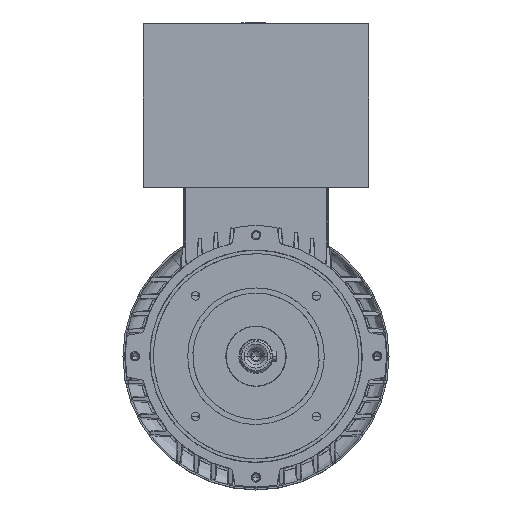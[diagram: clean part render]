
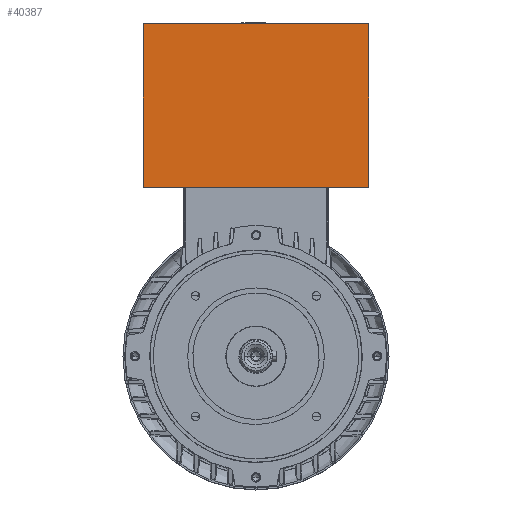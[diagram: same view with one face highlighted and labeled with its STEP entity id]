
A CAD part, top view. The second image highlights one B-rep face of the part: STEP entity #40387.
In plain terms, the highlighted planar face has unit normal (0, 0, 1).
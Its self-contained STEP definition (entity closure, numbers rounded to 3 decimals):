
#3850 = VERTEX_POINT ( 'NONE', #31460 ) ;
#7390 = VECTOR ( 'NONE', #16133, 1000. ) ;
#7811 = DIRECTION ( 'NONE',  ( -1., 0., 0. ) ) ;
#7893 = DIRECTION ( 'NONE',  ( 0., 1., 0. ) ) ;
#10848 = CARTESIAN_POINT ( 'NONE',  ( -66., -91.919, 66. ) ) ;
#11011 = EDGE_CURVE ( 'NONE', #34943, #53084, #34184, .T. ) ;
#11375 = EDGE_CURVE ( 'NONE', #3850, #34943, #11383, .T. ) ;
#11383 = LINE ( 'NONE', #22287, #54936 ) ;
#12778 = EDGE_CURVE ( 'NONE', #20676, #3850, #36199, .T. ) ;
#13856 = EDGE_LOOP ( 'NONE', ( #56081, #51580, #32221, #59006 ) ) ;
#14866 = CARTESIAN_POINT ( 'NONE',  ( -66., 195., 66. ) ) ;
#16133 = DIRECTION ( 'NONE',  ( 0., 1., 0. ) ) ;
#20315 = VECTOR ( 'NONE', #32984, 1000. ) ;
#20676 = VERTEX_POINT ( 'NONE', #60321 ) ;
#22287 = CARTESIAN_POINT ( 'NONE',  ( -66., -91.919, 66. ) ) ;
#25777 = EDGE_CURVE ( 'NONE', #20676, #53084, #26482, .T. ) ;
#26482 = LINE ( 'NONE', #35248, #7390 ) ;
#29075 = CARTESIAN_POINT ( 'NONE',  ( 66., 195., 66. ) ) ;
#31460 = CARTESIAN_POINT ( 'NONE',  ( -66., 99., 66. ) ) ;
#32221 = ORIENTED_EDGE ( 'NONE', *, *, #11375, .F. ) ;
#32984 = DIRECTION ( 'NONE',  ( 1., 0., 0. ) ) ;
#33336 = AXIS2_PLACEMENT_3D ( 'NONE', #10848, #53498, #52898 ) ;
#34184 = LINE ( 'NONE', #14866, #20315 ) ;
#34943 = VERTEX_POINT ( 'NONE', #50598 ) ;
#35248 = CARTESIAN_POINT ( 'NONE',  ( 66., -91.919, 66. ) ) ;
#36199 = LINE ( 'NONE', #59314, #38430 ) ;
#38430 = VECTOR ( 'NONE', #7811, 1000. ) ;
#40387 = ADVANCED_FACE ( 'NONE', ( #60532 ), #53085, .T. ) ;
#50598 = CARTESIAN_POINT ( 'NONE',  ( -66., 195., 66. ) ) ;
#51580 = ORIENTED_EDGE ( 'NONE', *, *, #11011, .F. ) ;
#52898 = DIRECTION ( 'NONE',  ( 1., 0., 0. ) ) ;
#53084 = VERTEX_POINT ( 'NONE', #29075 ) ;
#53085 = PLANE ( 'NONE',  #33336 ) ;
#53498 = DIRECTION ( 'NONE',  ( 0., 0., 1. ) ) ;
#54936 = VECTOR ( 'NONE', #7893, 1000. ) ;
#56081 = ORIENTED_EDGE ( 'NONE', *, *, #25777, .T. ) ;
#59006 = ORIENTED_EDGE ( 'NONE', *, *, #12778, .F. ) ;
#59314 = CARTESIAN_POINT ( 'NONE',  ( -66., 99., 66. ) ) ;
#60321 = CARTESIAN_POINT ( 'NONE',  ( 66., 99., 66. ) ) ;
#60532 = FACE_OUTER_BOUND ( 'NONE', #13856, .T. ) ;
